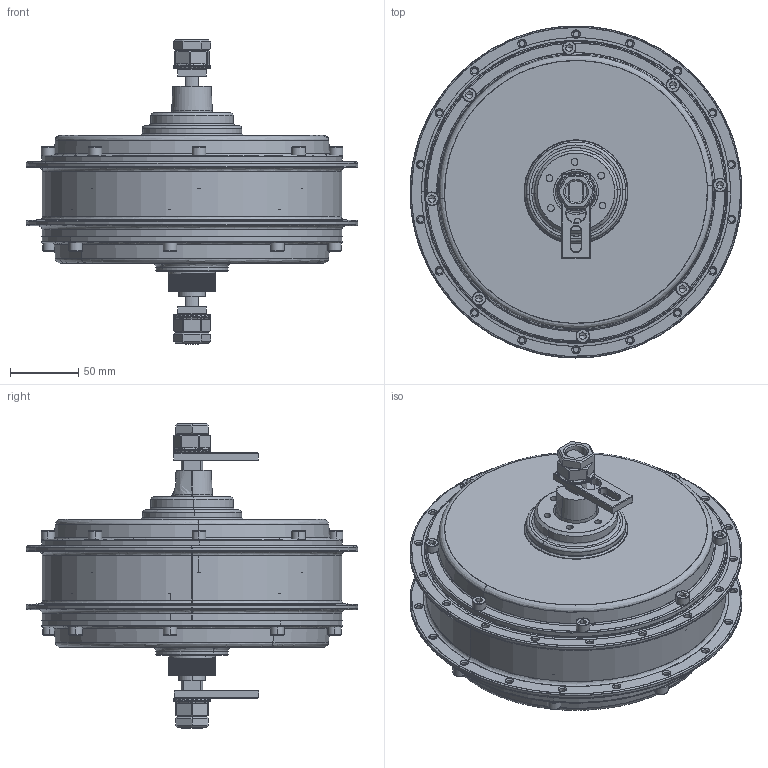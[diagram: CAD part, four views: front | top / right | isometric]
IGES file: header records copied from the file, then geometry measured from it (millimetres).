
Start section: SolidWorks IGES file using analytic representation for surfaces
Global section: file name: C:\Disk_D\Prjcts\eBike VLR\E-motobike 2x10kW\Wheels Rims\MotorHubs\QS205 SBORKA.IGS; native system: SolidWorks 2017; preprocessor: SolidWorks 2017; author: Alien; date: 210415.165110; units: millimetre
Bounding box: 244 x 244 x 223.8 mm (x, y, z)
Surface area: 696059.9 mm2 (no closed solid volume)
Topology: 0 solids, 0 shells, 2413 faces, 24706 edges, 24674 vertices
Faces by surface type: bspline 1676, revolution 737
